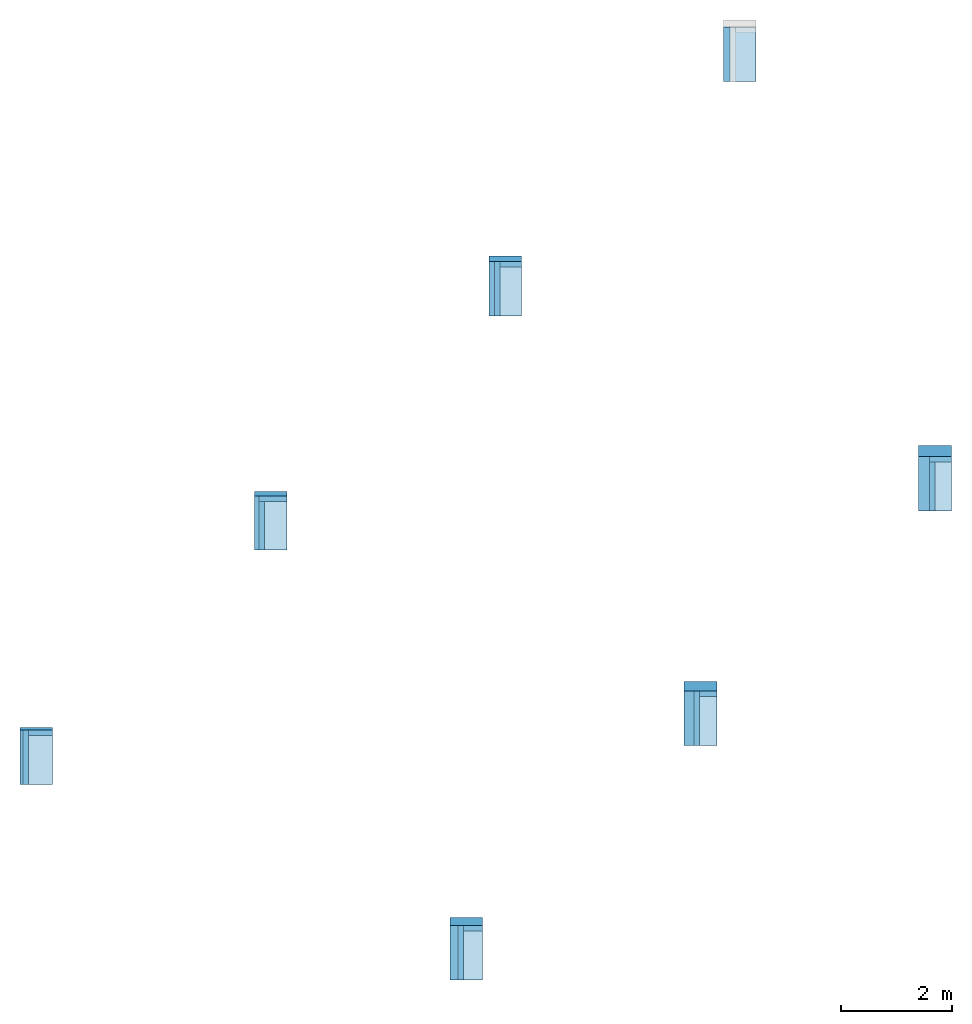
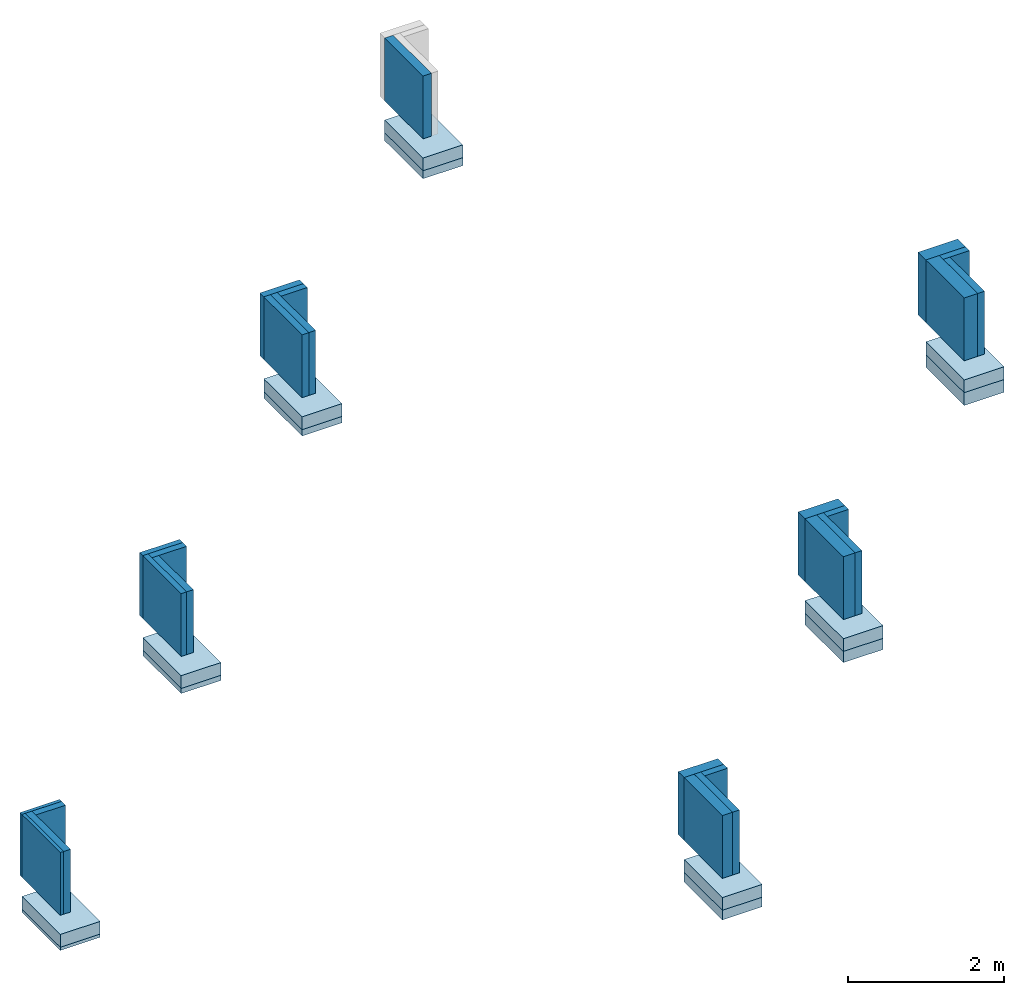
# One storey, part 1 of 2: 25 walls, 14 slabs.
"""IFC2X3 building model written with IfcOpenShell, lengths in millimetres."""

from ifc_helpers import new_model, entity, si_unit, converted_unit, derived_unit, direction, frame, frame_2d, origin, origin_2d_with_axis, place, context, subcontext, project, spatial, rectangle, extrude, material, layer, layer_set, layer_usage, type_object, element, save


model = new_model("IFC2X3")

# Units and contexts
model_context = context("Model", 3, precision=0.01, world=origin(), true_north=direction((6.12303176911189e-17, 1.0)))
context_of_model = context(None, 3, precision=0.01, world=origin(), true_north=direction((6.12303176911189e-17, 1.0)))
body_context = subcontext(model_context, "Body", "Model", "MODEL_VIEW")
ifc_project = project(units=[si_unit("LENGTHUNIT", "METRE", prefix="MILLI"), si_unit("AREAUNIT", "SQUARE_METRE"), si_unit("VOLUMEUNIT", "CUBIC_METRE"), converted_unit("PLANEANGLEUNIT", "DEGREE", entity("IfcRatioMeasure", 0.0174532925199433), si_unit("PLANEANGLEUNIT", "RADIAN"), dimensions=[0, 0, 0, 0, 0, 0, 0]), si_unit("MASSUNIT", "GRAM", prefix="KILO"), derived_unit("MASSDENSITYUNIT", [(si_unit("MASSUNIT", "GRAM", prefix="KILO"), 1), (si_unit("LENGTHUNIT", "METRE"), -3)]), derived_unit("MOMENTOFINERTIAUNIT", [(si_unit("LENGTHUNIT", "METRE"), 4)]), si_unit("TIMEUNIT", "SECOND"), si_unit("FREQUENCYUNIT", "HERTZ"), si_unit("THERMODYNAMICTEMPERATUREUNIT", "DEGREE_CELSIUS"), derived_unit("THERMALTRANSMITTANCEUNIT", [(si_unit("MASSUNIT", "GRAM", prefix="KILO"), 1), (si_unit("THERMODYNAMICTEMPERATUREUNIT", "KELVIN"), -1), (si_unit("TIMEUNIT", "SECOND"), -3)]), derived_unit("VOLUMETRICFLOWRATEUNIT", [(si_unit("LENGTHUNIT", "METRE"), 3), (si_unit("TIMEUNIT", "SECOND"), -1)]), si_unit("ELECTRICCURRENTUNIT", "AMPERE"), si_unit("ELECTRICVOLTAGEUNIT", "VOLT"), si_unit("POWERUNIT", "WATT"), si_unit("FORCEUNIT", "NEWTON", prefix="KILO"), si_unit("ILLUMINANCEUNIT", "LUX"), si_unit("LUMINOUSFLUXUNIT", "LUMEN"), si_unit("LUMINOUSINTENSITYUNIT", "CANDELA"), derived_unit("USERDEFINED", [(si_unit("MASSUNIT", "GRAM", prefix="KILO"), -1), (si_unit("LENGTHUNIT", "METRE"), -2), (si_unit("TIMEUNIT", "SECOND"), 3), (si_unit("LUMINOUSFLUXUNIT", "LUMEN"), 1)]), derived_unit("LINEARVELOCITYUNIT", [(si_unit("LENGTHUNIT", "METRE"), 1), (si_unit("TIMEUNIT", "SECOND"), -1)]), si_unit("PRESSUREUNIT", "PASCAL"), derived_unit("USERDEFINED", [(si_unit("LENGTHUNIT", "METRE"), -2), (si_unit("MASSUNIT", "GRAM", prefix="KILO"), 1), (si_unit("TIMEUNIT", "SECOND"), -2)]), derived_unit("LINEARFORCEUNIT", [(si_unit("MASSUNIT", "GRAM", prefix="KILO"), 1), (si_unit("LENGTHUNIT", "METRE"), 1), (si_unit("TIMEUNIT", "SECOND"), -2), (si_unit("LENGTHUNIT", "METRE"), -1)]), derived_unit("PLANARFORCEUNIT", [(si_unit("MASSUNIT", "GRAM", prefix="KILO"), 1), (si_unit("LENGTHUNIT", "METRE"), 1), (si_unit("TIMEUNIT", "SECOND"), -2), (si_unit("LENGTHUNIT", "METRE"), -2)])], contexts=[model_context, context_of_model])

# Site, building, storey
site_placement = place(None, origin())
site = spatial("IfcSite", under=ifc_project, at=site_placement, Name="Default", CompositionType="ELEMENT")
building_placement = place(site_placement, origin())
building = spatial("IfcBuilding", under=site, at=building_placement, CompositionType="ELEMENT")
storey_placement = place(building_placement, origin())
storey = spatial("IfcBuildingStorey", under=building, at=storey_placement, Name="00 begane grond", CompositionType="ELEMENT", Elevation=-2.77069864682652e-11)

# Slabs
ifc_material_1 = material(Name="Heraklith® I Heratekta - EPS60-SE")
ifc_layer_1 = layer(ifc_material_1, 70.0)
ifc_material_2 = material(Name="Heraklith® | Heratekta - Houtwollaag - 985x590mm")
ifc_layer_2 = layer(ifc_material_2, 10.0)
ifc_layer_set_1 = layer_set([ifc_layer_1, ifc_layer_2], Name="Floor:NLRS_23_FL_Heraklith Heratekta+ 80x985x590mm")
ifc_layer_usage_1 = layer_usage(ifc_layer_set_1, "AXIS3", "POSITIVE", 0.0)
slab_type_1 = type_object("IfcSlabType", Name="Floor:NLRS_23_FL_Heraklith Heratekta+ 80x985x590mm", PredefinedType="FLOOR", material=ifc_layer_set_1)
slab_1_placement = place(storey_placement, origin())
element("IfcSlab", 1, at=slab_1_placement, inside=storey, type_object=slab_type_1, material=ifc_layer_usage_1, Name="Floor:NLRS_23_FL_Heraklith Heratekta+ 80x985x590mm", ObjectType="Floor:NLRS_23_FL_Heraklith Heratekta+ 80x985x590mm", PredefinedType="FLOOR", context=body_context, shape_type="SweptSolid", body=[
    extrude(rectangle(XDim=985.0, YDim=590.0, at=frame_2d((5.6843418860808e-13, 0.0), x_axis=(1.0, 0.0))), frame((4537.64068711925, 4735.14068711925, -500.0), z_axis=(0.0, 0.0, -1.0), x_axis=(0.0, 1.0, 0.0)), (0.0, 0.0, 1.0), 80.0),
])
ifc_layer_3 = layer(ifc_material_1, 90.0)
ifc_layer_4 = layer(ifc_material_2, 10.0)
ifc_layer_set_2 = layer_set([ifc_layer_3, ifc_layer_4], Name="Floor:NLRS_23_FL_Heraklith Heratekta+ 100x985x590mm")
ifc_layer_usage_2 = layer_usage(ifc_layer_set_2, "AXIS3", "POSITIVE", 0.0)
slab_type_2 = type_object("IfcSlabType", Name="Floor:NLRS_23_FL_Heraklith Heratekta+ 100x985x590mm", PredefinedType="FLOOR", material=ifc_layer_set_2)
slab_2_placement = place(storey_placement, origin())
element("IfcSlab", 2, at=slab_2_placement, inside=storey, type_object=slab_type_2, material=ifc_layer_usage_2, Name="Floor:NLRS_23_FL_Heraklith Heratekta+ 100x985x590mm", ObjectType="Floor:NLRS_23_FL_Heraklith Heratekta+ 100x985x590mm", PredefinedType="FLOOR", context=body_context, shape_type="SweptSolid", body=[
    extrude(rectangle(XDim=985.0, YDim=590.0, at=frame_2d((-5.6843418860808e-13, 0.0), x_axis=(1.0, 0.0))), frame((8780.28137423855, 8977.78137423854, -500.0), z_axis=(0.0, 0.0, -1.0), x_axis=(0.0, 1.0, 0.0)), (0.0, 0.0, 1.0), 100.0),
])
ifc_layer_5 = layer(ifc_material_1, 115.0)
ifc_layer_6 = layer(ifc_material_2, 10.0)
ifc_layer_set_3 = layer_set([ifc_layer_5, ifc_layer_6], Name="Floor:NLRS_23_FL_Heraklith Heratekta+ 125x985x590mm")
ifc_layer_usage_3 = layer_usage(ifc_layer_set_3, "AXIS3", "POSITIVE", 0.0)
slab_type_3 = type_object("IfcSlabType", Name="Floor:NLRS_23_FL_Heraklith Heratekta+ 125x985x590mm", PredefinedType="FLOOR", material=ifc_layer_set_3)
slab_3_placement = place(storey_placement, origin())
element("IfcSlab", 3, at=slab_3_placement, inside=storey, type_object=slab_type_3, material=ifc_layer_usage_3, Name="Floor:NLRS_23_FL_Heraklith Heratekta+ 125x985x590mm", ObjectType="Floor:NLRS_23_FL_Heraklith Heratekta+ 125x985x590mm", PredefinedType="FLOOR", context=body_context, shape_type="SweptSolid", body=[
    extrude(rectangle(XDim=984.999999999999, YDim=590.0, at=frame_2d((-1.10844666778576e-12, 0.0), x_axis=(1.0, 0.0))), frame((13022.9220613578, 13220.4220613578, -500.0), z_axis=(0.0, 0.0, -1.0), x_axis=(0.0, 1.0, 0.0)), (0.0, 0.0, 1.0), 125.0),
])
ifc_layer_7 = layer(ifc_material_1, 140.0)
ifc_layer_8 = layer(ifc_material_2, 10.0)
ifc_layer_set_4 = layer_set([ifc_layer_7, ifc_layer_8], Name="Floor:NLRS_23_FL_Heraklith Heratekta+ 150x985x590mm")
ifc_layer_usage_4 = layer_usage(ifc_layer_set_4, "AXIS3", "POSITIVE", 0.0)
slab_type_4 = type_object("IfcSlabType", Name="Floor:NLRS_23_FL_Heraklith Heratekta+ 150x985x590mm", PredefinedType="FLOOR", material=ifc_layer_set_4)
slab_4_placement = place(storey_placement, origin())
element("IfcSlab", 4, at=slab_4_placement, inside=storey, type_object=slab_type_4, material=ifc_layer_usage_4, Name="Floor:NLRS_23_FL_Heraklith Heratekta+ 150x985x590mm", ObjectType="Floor:NLRS_23_FL_Heraklith Heratekta+ 150x985x590mm", PredefinedType="FLOOR", context=body_context, shape_type="SweptSolid", body=[
    extrude(rectangle(XDim=985.0, YDim=590.0, at=origin_2d_with_axis()), frame((8073.17459305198, -3043.03390593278, -500.0), z_axis=(0.0, 0.0, -1.0), x_axis=(0.0, 1.0, 0.0)), (0.0, 0.0, 1.0), 150.0),
])
ifc_layer_9 = layer(ifc_material_1, 165.0)
ifc_layer_10 = layer(ifc_material_2, 10.0)
ifc_layer_set_5 = layer_set([ifc_layer_9, ifc_layer_10], Name="Floor:NLRS_23_FL_Heraklith Heratekta+ 175x985x590mm")
ifc_layer_usage_5 = layer_usage(ifc_layer_set_5, "AXIS3", "POSITIVE", 0.0)
slab_type_5 = type_object("IfcSlabType", Name="Floor:NLRS_23_FL_Heraklith Heratekta+ 175x985x590mm", PredefinedType="FLOOR", material=ifc_layer_set_5)
slab_5_placement = place(storey_placement, origin())
element("IfcSlab", 5, at=slab_5_placement, inside=storey, type_object=slab_type_5, material=ifc_layer_usage_5, Name="Floor:NLRS_23_FL_Heraklith Heratekta+ 175x985x590mm", ObjectType="Floor:NLRS_23_FL_Heraklith Heratekta+ 175x985x590mm", PredefinedType="FLOOR", context=body_context, shape_type="SweptSolid", body=[
    extrude(rectangle(XDim=985.0, YDim=590.0, at=frame_2d((1.4210854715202e-13, 0.0), x_axis=(1.0, 0.0))), frame((12315.8152801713, 1199.6067811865, -500.0), z_axis=(0.0, 0.0, -1.0), x_axis=(0.0, 1.0, 0.0)), (0.0, 0.0, 1.0), 175.0),
])
ifc_layer_11 = layer(ifc_material_1, 190.0)
ifc_layer_12 = layer(ifc_material_2, 10.0)
ifc_layer_set_6 = layer_set([ifc_layer_11, ifc_layer_12], Name="Floor:NLRS_23_FL_Heraklith Heratekta+ 200x985x590mm")
ifc_layer_usage_6 = layer_usage(ifc_layer_set_6, "AXIS3", "POSITIVE", 0.0)
slab_type_6 = type_object("IfcSlabType", Name="Floor:NLRS_23_FL_Heraklith Heratekta+ 200x985x590mm", PredefinedType="FLOOR", material=ifc_layer_set_6)
slab_6_placement = place(storey_placement, origin())
element("IfcSlab", 6, at=slab_6_placement, inside=storey, type_object=slab_type_6, material=ifc_layer_usage_6, Name="Floor:NLRS_23_FL_Heraklith Heratekta+ 200x985x590mm", ObjectType="Floor:NLRS_23_FL_Heraklith Heratekta+ 200x985x590mm", PredefinedType="FLOOR", context=body_context, shape_type="SweptSolid", body=[
    extrude(rectangle(XDim=985.0, YDim=590.0, at=frame_2d((-5.6843418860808e-13, 0.0), x_axis=(1.0, 0.0))), frame((16558.4559672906, 5442.24746830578, -500.0), z_axis=(0.0, 0.0, -1.0), x_axis=(0.0, 1.0, 0.0)), (0.0, 0.0, 1.0), 200.0),
])
ifc_material_3 = material(Name="Concrete, Precast Panels")
ifc_layer_13 = layer(ifc_material_3, 200.0)
ifc_layer_set_7 = layer_set([ifc_layer_13], Name="Floor:Generic 200mm")
ifc_layer_usage_7 = layer_usage(ifc_layer_set_7, "AXIS3", "POSITIVE", 0.0)
slab_type_7 = type_object("IfcSlabType", Name="Floor:Generic 200mm", PredefinedType="FLOOR", material=ifc_layer_set_7)
slab_7_placement = place(storey_placement, origin())
element("IfcSlab", 7, at=slab_7_placement, inside=storey, type_object=slab_type_7, material=ifc_layer_usage_7, Name="Floor:Generic 200mm", ObjectType="Floor:Generic 200mm", PredefinedType="FLOOR", context=body_context, shape_type="SweptSolid", body=[
    extrude(rectangle(XDim=984.999999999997, YDim=589.999999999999, at=frame_2d((-5.6843418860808e-14, 1.13686837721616e-12), x_axis=(1.0, 0.0))), frame((295.0, 492.499999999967, -300.0), z_axis=(0.0, 0.0, -1.0), x_axis=(0.0, 1.0, 0.0)), (0.0, 0.0, 1.0), 200.0),
])
ifc_layer_usage_8 = layer_usage(ifc_layer_set_7, "AXIS3", "POSITIVE", 0.0)
slab_type_8 = type_object("IfcSlabType", Name="Floor:Generic 200mm", PredefinedType="FLOOR", material=ifc_layer_set_7)
slab_8_placement = place(storey_placement, origin())
element("IfcSlab", 8, at=slab_8_placement, inside=storey, type_object=slab_type_8, material=ifc_layer_usage_8, Name="Floor:Generic 200mm", ObjectType="Floor:Generic 200mm", PredefinedType="FLOOR", context=body_context, shape_type="SweptSolid", body=[
    extrude(rectangle(XDim=985.000000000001, YDim=589.999999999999, at=origin_2d_with_axis()), frame((4537.64068711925, 4735.14068711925, -300.0), z_axis=(0.0, 0.0, -1.0), x_axis=(0.0, 1.0, 0.0)), (0.0, 0.0, 1.0), 200.0),
])
ifc_layer_usage_9 = layer_usage(ifc_layer_set_7, "AXIS3", "POSITIVE", 0.0)
slab_type_9 = type_object("IfcSlabType", Name="Floor:Generic 200mm", PredefinedType="FLOOR", material=ifc_layer_set_7)
slab_9_placement = place(storey_placement, origin())
element("IfcSlab", 9, at=slab_9_placement, inside=storey, type_object=slab_type_9, material=ifc_layer_usage_9, Name="Floor:Generic 200mm", ObjectType="Floor:Generic 200mm", PredefinedType="FLOOR", context=body_context, shape_type="SweptSolid", body=[
    extrude(rectangle(XDim=984.999999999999, YDim=589.999999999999, at=frame_2d((0.0, 5.40012479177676e-13), x_axis=(1.0, 0.0))), frame((8780.28137423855, 8977.78137423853, -300.0), z_axis=(0.0, 0.0, -1.0), x_axis=(0.0, 1.0, 0.0)), (0.0, 0.0, 1.0), 200.0),
])
ifc_layer_usage_10 = layer_usage(ifc_layer_set_7, "AXIS3", "POSITIVE", 0.0)
slab_type_10 = type_object("IfcSlabType", Name="Floor:Generic 200mm", PredefinedType="FLOOR", material=ifc_layer_set_7)
slab_10_placement = place(storey_placement, origin())
element("IfcSlab", 10, at=slab_10_placement, inside=storey, type_object=slab_type_10, material=ifc_layer_usage_10, Name="Floor:Generic 200mm", ObjectType="Floor:Generic 200mm", PredefinedType="FLOOR", context=body_context, shape_type="SweptSolid", body=[
    extrude(rectangle(XDim=984.999999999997, YDim=590.0, at=frame_2d((2.18847162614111e-12, 0.0), x_axis=(1.0, 0.0))), frame((13022.9220613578, 13220.4220613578, -300.0), z_axis=(0.0, 0.0, -1.0), x_axis=(0.0, 1.0, 0.0)), (0.0, 0.0, 1.0), 200.0),
])
ifc_layer_usage_11 = layer_usage(ifc_layer_set_7, "AXIS3", "POSITIVE", 0.0)
slab_type_11 = type_object("IfcSlabType", Name="Floor:Generic 200mm", PredefinedType="FLOOR", material=ifc_layer_set_7)
slab_11_placement = place(storey_placement, origin())
element("IfcSlab", 11, at=slab_11_placement, inside=storey, type_object=slab_type_11, material=ifc_layer_usage_11, Name="Floor:Generic 200mm", ObjectType="Floor:Generic 200mm", PredefinedType="FLOOR", context=body_context, shape_type="SweptSolid", body=[
    extrude(rectangle(XDim=984.999999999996, YDim=590.0, at=frame_2d((-5.40012479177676e-13, 0.0), x_axis=(1.0, 0.0))), frame((16558.4559672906, 5442.24746830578, -300.0), z_axis=(0.0, 0.0, -1.0), x_axis=(0.0, 1.0, 0.0)), (0.0, 0.0, 1.0), 200.0),
])
ifc_layer_usage_12 = layer_usage(ifc_layer_set_7, "AXIS3", "POSITIVE", 0.0)
slab_type_12 = type_object("IfcSlabType", Name="Floor:Generic 200mm", PredefinedType="FLOOR", material=ifc_layer_set_7)
slab_12_placement = place(storey_placement, origin())
element("IfcSlab", 12, at=slab_12_placement, inside=storey, type_object=slab_type_12, material=ifc_layer_usage_12, Name="Floor:Generic 200mm", ObjectType="Floor:Generic 200mm", PredefinedType="FLOOR", context=body_context, shape_type="SweptSolid", body=[
    extrude(rectangle(XDim=985.000000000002, YDim=590.0, at=frame_2d((-2.8421709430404e-13, 0.0), x_axis=(1.0, 0.0))), frame((12315.8152801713, 1199.6067811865, -300.0), z_axis=(0.0, 0.0, -1.0), x_axis=(0.0, 1.0, 0.0)), (0.0, 0.0, 1.0), 200.0),
])
ifc_layer_usage_13 = layer_usage(ifc_layer_set_7, "AXIS3", "POSITIVE", 0.0)
slab_type_13 = type_object("IfcSlabType", Name="Floor:Generic 200mm", PredefinedType="FLOOR", material=ifc_layer_set_7)
slab_13_placement = place(storey_placement, origin())
element("IfcSlab", 13, at=slab_13_placement, inside=storey, type_object=slab_type_13, material=ifc_layer_usage_13, Name="Floor:Generic 200mm", ObjectType="Floor:Generic 200mm", PredefinedType="FLOOR", context=body_context, shape_type="SweptSolid", body=[
    extrude(rectangle(XDim=985.000000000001, YDim=590.000000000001, at=frame_2d((0.0, 5.40012479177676e-13), x_axis=(1.0, 0.0))), frame((8073.17459305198, -3043.03390593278, -300.0), z_axis=(0.0, 0.0, -1.0), x_axis=(0.0, 1.0, 0.0)), (0.0, 0.0, 1.0), 200.0),
])
ifc_layer_14 = layer(ifc_material_1, 40.0)
ifc_layer_15 = layer(ifc_material_2, 10.0)
ifc_layer_set_8 = layer_set([ifc_layer_14, ifc_layer_15], Name="Floor:NLRS_23_FL_Heraklith Heratekta+ 50x985x590mm")
ifc_layer_usage_14 = layer_usage(ifc_layer_set_8, "AXIS3", "POSITIVE", 0.0)
slab_type_14 = type_object("IfcSlabType", Name="Floor:NLRS_23_FL_Heraklith Heratekta+ 50x985x590mm", PredefinedType="FLOOR", material=ifc_layer_set_8)
slab_14_placement = place(storey_placement, origin())
element("IfcSlab", 14, at=slab_14_placement, inside=storey, type_object=slab_type_14, material=ifc_layer_usage_14, Name="Floor:NLRS_23_FL_Heraklith Heratekta+ 50x985x590mm", ObjectType="Floor:NLRS_23_FL_Heraklith Heratekta+ 50x985x590mm", PredefinedType="FLOOR", context=body_context, shape_type="SweptSolid", body=[
    extrude(rectangle(XDim=985.0, YDim=590.0, at=origin_2d_with_axis()), frame((295.0, 492.519553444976, -500.0), z_axis=(0.0, 0.0, -1.0), x_axis=(0.0, 1.0, 0.0)), (0.0, 0.0, 1.0), 50.0),
])

# Walls
ifc_layer_16 = layer(ifc_material_1, 40.0)
ifc_layer_17 = layer(ifc_material_2, 10.0)
ifc_layer_set_9 = layer_set([ifc_layer_16, ifc_layer_17], Name="Basic Wall:NLRS_42_WA_Heraklith Heratekta+ 50x985x590mm")
ifc_layer_usage_15 = layer_usage(ifc_layer_set_9, "AXIS2", "POSITIVE", -25.0)
wall_type_1 = type_object("IfcWallType", Name="Basic Wall:NLRS_42_WA_Heraklith Heratekta+ 50x985x590mm", PredefinedType="STANDARD", material=ifc_layer_set_9)
wall_1_placement = place(storey_placement, frame((25.0, 0.0, 0.0), z_axis=(0.0, 0.0, 1.0), x_axis=(0.0, 1.0, 0.0)))
element("IfcWallStandardCase", 15, at=wall_1_placement, inside=storey, type_object=wall_type_1, material=ifc_layer_usage_15, Name="Basic Wall:NLRS_42_WA_Heraklith Heratekta+ 50x985x590mm", ObjectType="Basic Wall:NLRS_42_WA_Heraklith Heratekta+ 50x985x590mm", context=body_context, shape_type="SweptSolid", body=[
    extrude(rectangle(XDim=985.0, YDim=50.0, at=frame_2d((492.5, 1.77635683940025e-15), x_axis=(-1.0, 0.0))), origin(), (0.0, 0.0, 1.0), 985.000000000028),
])
ifc_layer_18 = layer(ifc_material_1, 40.0)
ifc_layer_19 = layer(ifc_material_2, 10.0)
ifc_layer_set_10 = layer_set([ifc_layer_18, ifc_layer_19], Name="Basic Wall:NLRS_41_WA_Heraklith Heratekta+ 50x985x590mm")
ifc_layer_usage_16 = layer_usage(ifc_layer_set_10, "AXIS2", "NEGATIVE", 25.0)
wall_type_2 = type_object("IfcWallType", Name="Basic Wall:NLRS_41_WA_Heraklith Heratekta+ 50x985x590mm", PredefinedType="STANDARD", material=ifc_layer_set_10)
wall_2_placement = place(storey_placement, frame((590.0, 1010.0, 0.0), z_axis=(0.0, 0.0, 1.0), x_axis=(-1.0, 0.0, 0.0)))
element("IfcWallStandardCase", 16, at=wall_2_placement, inside=storey, type_object=wall_type_2, material=ifc_layer_usage_16, Name="Basic Wall:NLRS_41_WA_Heraklith Heratekta+ 50x985x590mm", ObjectType="Basic Wall:NLRS_41_WA_Heraklith Heratekta+ 50x985x590mm", context=body_context, shape_type="SweptSolid", body=[
    extrude(rectangle(XDim=590.0, YDim=50.0, at=frame_2d((295.0, -1.59872115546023e-14), x_axis=(-1.0, 0.0))), origin(), (0.0, 0.0, 1.0), 985.000000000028),
])
ifc_layer_20 = layer(ifc_material_1, 70.0)
ifc_layer_21 = layer(ifc_material_2, 10.0)
ifc_layer_set_11 = layer_set([ifc_layer_20, ifc_layer_21], Name="Basic Wall:NLRS_42_WA_Heraklith Heratekta+ 80x985x590mm")
ifc_layer_usage_17 = layer_usage(ifc_layer_set_11, "AXIS2", "POSITIVE", -40.0)
wall_type_3 = type_object("IfcWallType", Name="Basic Wall:NLRS_42_WA_Heraklith Heratekta+ 80x985x590mm", PredefinedType="STANDARD", material=ifc_layer_set_11)
wall_3_placement = place(storey_placement, frame((4282.64068711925, 4242.64068711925, 0.0), z_axis=(0.0, 0.0, 1.0), x_axis=(0.0, 1.0, 0.0)))
element("IfcWallStandardCase", 17, at=wall_3_placement, inside=storey, type_object=wall_type_3, material=ifc_layer_usage_17, Name="Basic Wall:NLRS_42_WA_Heraklith Heratekta+ 80x985x590mm", ObjectType="Basic Wall:NLRS_42_WA_Heraklith Heratekta+ 80x985x590mm", context=body_context, shape_type="SweptSolid", body=[
    extrude(rectangle(XDim=984.999999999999, YDim=80.0000000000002, at=frame_2d((492.5, -2.1316282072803e-14), x_axis=(-1.0, 0.0))), origin(), (0.0, 0.0, 1.0), 985.000000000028),
])
ifc_layer_22 = layer(ifc_material_1, 70.0)
ifc_layer_23 = layer(ifc_material_2, 10.0)
ifc_layer_set_12 = layer_set([ifc_layer_22, ifc_layer_23], Name="Basic Wall:NLRS_41_WA_Heraklith Heratekta+ 80x985x590mm")
ifc_layer_usage_18 = layer_usage(ifc_layer_set_12, "AXIS2", "NEGATIVE", 40.0)
wall_type_4 = type_object("IfcWallType", Name="Basic Wall:NLRS_41_WA_Heraklith Heratekta+ 80x985x590mm", PredefinedType="STANDARD", material=ifc_layer_set_12)
wall_4_placement = place(storey_placement, frame((4832.64068711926, 5267.64068711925, 0.0), z_axis=(0.0, 0.0, 1.0), x_axis=(-1.0, 0.0, 0.0)))
element("IfcWallStandardCase", 18, at=wall_4_placement, inside=storey, type_object=wall_type_4, material=ifc_layer_usage_18, Name="Basic Wall:NLRS_41_WA_Heraklith Heratekta+ 80x985x590mm", ObjectType="Basic Wall:NLRS_41_WA_Heraklith Heratekta+ 80x985x590mm", context=body_context, shape_type="SweptSolid", body=[
    extrude(rectangle(XDim=590.000000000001, YDim=79.9999999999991, at=frame_2d((295.0, 4.58300064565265e-13), x_axis=(-1.0, 0.0))), origin(), (0.0, 0.0, 1.0), 985.000000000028),
])
ifc_layer_24 = layer(ifc_material_1, 90.0)
ifc_layer_25 = layer(ifc_material_2, 10.0)
ifc_layer_set_13 = layer_set([ifc_layer_24, ifc_layer_25], Name="Basic Wall:NLRS_42_WA_Heraklith Heratekta+ 100x985x590mm")
ifc_layer_usage_19 = layer_usage(ifc_layer_set_13, "AXIS2", "POSITIVE", -50.0)
wall_type_5 = type_object("IfcWallType", Name="Basic Wall:NLRS_42_WA_Heraklith Heratekta+ 100x985x590mm", PredefinedType="STANDARD", material=ifc_layer_set_13)
wall_5_placement = place(storey_placement, frame((8535.28137423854, 8485.28137423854, 0.0), z_axis=(0.0, 0.0, 1.0), x_axis=(0.0, 1.0, 0.0)))
element("IfcWallStandardCase", 19, at=wall_5_placement, inside=storey, type_object=wall_type_5, material=ifc_layer_usage_19, Name="Basic Wall:NLRS_42_WA_Heraklith Heratekta+ 100x985x590mm", ObjectType="Basic Wall:NLRS_42_WA_Heraklith Heratekta+ 100x985x590mm", context=body_context, shape_type="SweptSolid", body=[
    extrude(rectangle(XDim=984.999999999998, YDim=99.9999999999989, at=frame_2d((492.499999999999, 2.52242671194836e-13), x_axis=(-1.0, 0.0))), origin(), (0.0, 0.0, 1.0), 985.000000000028),
])
ifc_layer_26 = layer(ifc_material_1, 90.0)
ifc_layer_27 = layer(ifc_material_2, 10.0)
ifc_layer_set_14 = layer_set([ifc_layer_26, ifc_layer_27], Name="Basic Wall:NLRS_41_WA_Heraklith Heratekta+ 100x985x590mm")
ifc_layer_usage_20 = layer_usage(ifc_layer_set_14, "AXIS2", "NEGATIVE", 50.0)
wall_type_6 = type_object("IfcWallType", Name="Basic Wall:NLRS_41_WA_Heraklith Heratekta+ 100x985x590mm", PredefinedType="STANDARD", material=ifc_layer_set_14)
wall_6_placement = place(storey_placement, frame((9075.28137423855, 9520.28137423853, 0.0), z_axis=(0.0, 0.0, 1.0), x_axis=(-1.0, 0.0, 0.0)))
element("IfcWallStandardCase", 20, at=wall_6_placement, inside=storey, type_object=wall_type_6, material=ifc_layer_usage_20, Name="Basic Wall:NLRS_41_WA_Heraklith Heratekta+ 100x985x590mm", ObjectType="Basic Wall:NLRS_41_WA_Heraklith Heratekta+ 100x985x590mm", context=body_context, shape_type="SweptSolid", body=[
    extrude(rectangle(XDim=590.0, YDim=99.9999999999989, at=frame_2d((295.0, 4.58300064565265e-13), x_axis=(-1.0, 0.0))), origin(), (0.0, 0.0, 1.0), 985.000000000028),
])
ifc_layer_28 = layer(ifc_material_1, 115.0)
ifc_layer_29 = layer(ifc_material_2, 10.0)
ifc_layer_set_15 = layer_set([ifc_layer_28, ifc_layer_29], Name="Basic Wall:NLRS_42_WA_Heraklith Heratekta+ 125x985x590mm")
ifc_layer_usage_21 = layer_usage(ifc_layer_set_15, "AXIS2", "POSITIVE", -62.5)
wall_type_7 = type_object("IfcWallType", Name="Basic Wall:NLRS_42_WA_Heraklith Heratekta+ 125x985x590mm", PredefinedType="STANDARD", material=ifc_layer_set_15)
wall_7_placement = place(storey_placement, frame((12790.4220613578, 12727.9220613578, 0.0), z_axis=(0.0, 0.0, 1.0), x_axis=(0.0, 1.0, 0.0)))
element("IfcWallStandardCase", 21, at=wall_7_placement, inside=storey, type_object=wall_type_7, material=ifc_layer_usage_21, Name="Basic Wall:NLRS_42_WA_Heraklith Heratekta+ 125x985x590mm", ObjectType="Basic Wall:NLRS_42_WA_Heraklith Heratekta+ 125x985x590mm", context=body_context, shape_type="SweptSolid", body=[
    extrude(rectangle(XDim=984.999999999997, YDim=125.000000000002, at=frame_2d((492.499999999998, -2.91322521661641e-13), x_axis=(-1.0, 0.0))), origin(), (0.0, 0.0, 1.0), 985.000000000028),
])
ifc_layer_30 = layer(ifc_material_1, 140.0)
ifc_layer_31 = layer(ifc_material_2, 10.0)
ifc_layer_set_16 = layer_set([ifc_layer_30, ifc_layer_31], Name="Basic Wall:NLRS_42_WA_Heraklith Heratekta+ 150x985x590mm")
ifc_layer_usage_22 = layer_usage(ifc_layer_set_16, "AXIS2", "POSITIVE", -75.0)
wall_type_8 = type_object("IfcWallType", Name="Basic Wall:NLRS_42_WA_Heraklith Heratekta+ 150x985x590mm", PredefinedType="STANDARD", material=ifc_layer_set_16)
wall_8_placement = place(storey_placement, frame((7853.17459305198, -3535.53390593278, 0.0), z_axis=(0.0, 0.0, 1.0), x_axis=(0.0, 1.0, 0.0)))
element("IfcWallStandardCase", 22, at=wall_8_placement, inside=storey, type_object=wall_type_8, material=ifc_layer_usage_22, Name="Basic Wall:NLRS_42_WA_Heraklith Heratekta+ 150x985x590mm", ObjectType="Basic Wall:NLRS_42_WA_Heraklith Heratekta+ 150x985x590mm", context=body_context, shape_type="SweptSolid", body=[
    extrude(rectangle(XDim=985.000000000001, YDim=150.000000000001, at=frame_2d((492.5, 2.55795384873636e-13), x_axis=(-1.0, 0.0))), origin(), (0.0, 0.0, 1.0), 985.000000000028),
])
ifc_layer_32 = layer(ifc_material_1, 140.0)
ifc_layer_33 = layer(ifc_material_2, 10.0)
ifc_layer_set_17 = layer_set([ifc_layer_32, ifc_layer_33], Name="Basic Wall:NLRS_41_WA_Heraklith Heratekta+ 150x985x590mm")
ifc_layer_usage_23 = layer_usage(ifc_layer_set_17, "AXIS2", "NEGATIVE", 75.0)
wall_type_9 = type_object("IfcWallType", Name="Basic Wall:NLRS_41_WA_Heraklith Heratekta+ 150x985x590mm", PredefinedType="STANDARD", material=ifc_layer_set_17)
wall_9_placement = place(storey_placement, frame((8368.17459305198, -2475.53390593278, 0.0), z_axis=(0.0, 0.0, 1.0), x_axis=(-1.0, 0.0, 0.0)))
element("IfcWallStandardCase", 23, at=wall_9_placement, inside=storey, type_object=wall_type_9, material=ifc_layer_usage_23, Name="Basic Wall:NLRS_41_WA_Heraklith Heratekta+ 150x985x590mm", ObjectType="Basic Wall:NLRS_41_WA_Heraklith Heratekta+ 150x985x590mm", context=body_context, shape_type="SweptSolid", body=[
    extrude(rectangle(XDim=590.000000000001, YDim=150.0, at=frame_2d((295.000000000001, -2.20268248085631e-13), x_axis=(-1.0, 0.0))), origin(), (0.0, 0.0, 1.0), 985.000000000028),
])
ifc_layer_34 = layer(ifc_material_1, 165.0)
ifc_layer_35 = layer(ifc_material_2, 10.0)
ifc_layer_set_18 = layer_set([ifc_layer_34, ifc_layer_35], Name="Basic Wall:NLRS_42_WA_Heraklith Heratekta+ 175x985x590mm")
ifc_layer_usage_24 = layer_usage(ifc_layer_set_18, "AXIS2", "POSITIVE", -87.5)
wall_type_10 = type_object("IfcWallType", Name="Basic Wall:NLRS_42_WA_Heraklith Heratekta+ 175x985x590mm", PredefinedType="STANDARD", material=ifc_layer_set_18)
wall_10_placement = place(storey_placement, frame((12108.3152801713, 707.106781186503, 0.0), z_axis=(0.0, 0.0, 1.0), x_axis=(0.0, 1.0, 0.0)))
element("IfcWallStandardCase", 24, at=wall_10_placement, inside=storey, type_object=wall_type_10, material=ifc_layer_usage_24, Name="Basic Wall:NLRS_42_WA_Heraklith Heratekta+ 175x985x590mm", ObjectType="Basic Wall:NLRS_42_WA_Heraklith Heratekta+ 175x985x590mm", context=body_context, shape_type="SweptSolid", body=[
    extrude(rectangle(XDim=985.0, YDim=174.999999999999, at=frame_2d((492.5, -2.91322521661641e-13), x_axis=(-1.0, 0.0))), origin(), (0.0, 0.0, 1.0), 985.000000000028),
])
ifc_layer_36 = layer(ifc_material_1, 165.0)
ifc_layer_37 = layer(ifc_material_2, 10.0)
ifc_layer_set_19 = layer_set([ifc_layer_36, ifc_layer_37], Name="Basic Wall:NLRS_41_WA_Heraklith Heratekta+ 175x985x590mm")
ifc_layer_usage_25 = layer_usage(ifc_layer_set_19, "AXIS2", "NEGATIVE", 87.5)
wall_type_11 = type_object("IfcWallType", Name="Basic Wall:NLRS_41_WA_Heraklith Heratekta+ 175x985x590mm", PredefinedType="STANDARD", material=ifc_layer_set_19)
wall_11_placement = place(storey_placement, frame((12610.8152801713, 1779.6067811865, 0.0), z_axis=(0.0, 0.0, 1.0), x_axis=(-1.0, 0.0, 0.0)))
element("IfcWallStandardCase", 25, at=wall_11_placement, inside=storey, type_object=wall_type_11, material=ifc_layer_usage_25, Name="Basic Wall:NLRS_41_WA_Heraklith Heratekta+ 175x985x590mm", ObjectType="Basic Wall:NLRS_41_WA_Heraklith Heratekta+ 175x985x590mm", context=body_context, shape_type="SweptSolid", body=[
    extrude(rectangle(XDim=589.999999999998, YDim=175.0, at=frame_2d((294.999999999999, -8.5265128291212e-14), x_axis=(-1.0, 0.0))), origin(), (0.0, 0.0, 1.0), 985.000000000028),
])
ifc_layer_38 = layer(ifc_material_1, 190.0)
ifc_layer_39 = layer(ifc_material_2, 10.0)
ifc_layer_set_20 = layer_set([ifc_layer_38, ifc_layer_39], Name="Basic Wall:NLRS_42_WA_Heraklith Heratekta+ 200x985x590mm")
ifc_layer_usage_26 = layer_usage(ifc_layer_set_20, "AXIS2", "POSITIVE", -100.0)
wall_type_12 = type_object("IfcWallType", Name="Basic Wall:NLRS_42_WA_Heraklith Heratekta+ 200x985x590mm", PredefinedType="STANDARD", material=ifc_layer_set_20)
wall_12_placement = place(storey_placement, frame((16363.4559672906, 4949.74746830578, 0.0), z_axis=(0.0, 0.0, 1.0), x_axis=(0.0, 1.0, 0.0)))
element("IfcWallStandardCase", 26, at=wall_12_placement, inside=storey, type_object=wall_type_12, material=ifc_layer_usage_26, Name="Basic Wall:NLRS_42_WA_Heraklith Heratekta+ 200x985x590mm", ObjectType="Basic Wall:NLRS_42_WA_Heraklith Heratekta+ 200x985x590mm", context=body_context, shape_type="SweptSolid", body=[
    extrude(rectangle(XDim=985.000000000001, YDim=199.999999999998, at=frame_2d((492.500000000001, -2.8421709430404e-13), x_axis=(-1.0, 0.0))), origin(), (0.0, 0.0, 1.0), 985.000000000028),
])
ifc_layer_40 = layer(ifc_material_1, 190.0)
ifc_layer_41 = layer(ifc_material_2, 10.0)
ifc_layer_set_21 = layer_set([ifc_layer_40, ifc_layer_41], Name="Basic Wall:NLRS_41_WA_Heraklith Heratekta+ 200x985x590mm")
ifc_layer_usage_27 = layer_usage(ifc_layer_set_21, "AXIS2", "NEGATIVE", 100.0)
wall_type_13 = type_object("IfcWallType", Name="Basic Wall:NLRS_41_WA_Heraklith Heratekta+ 200x985x590mm", PredefinedType="STANDARD", material=ifc_layer_set_21)
wall_13_placement = place(storey_placement, frame((16853.4559672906, 6034.74746830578, 0.0), z_axis=(0.0, 0.0, 1.0), x_axis=(-1.0, 0.0, 0.0)))
element("IfcWallStandardCase", 27, at=wall_13_placement, inside=storey, type_object=wall_type_13, material=ifc_layer_usage_27, Name="Basic Wall:NLRS_41_WA_Heraklith Heratekta+ 200x985x590mm", ObjectType="Basic Wall:NLRS_41_WA_Heraklith Heratekta+ 200x985x590mm", context=body_context, shape_type="SweptSolid", body=[
    extrude(rectangle(XDim=590.0, YDim=200.0, at=frame_2d((295.0, 4.61852778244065e-13), x_axis=(-1.0, 0.0))), origin(), (0.0, 0.0, 1.0), 985.000000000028),
])
ifc_layer_42 = layer(ifc_material_3, 100.0)
ifc_layer_set_22 = layer_set([ifc_layer_42], Name="Basic Wall:Generic_100mm")
ifc_layer_usage_28 = layer_usage(ifc_layer_set_22, "AXIS2", "NEGATIVE", 50.0)
wall_type_14 = type_object("IfcWallType", Name="Basic Wall:Generic_100mm", PredefinedType="STANDARD", material=ifc_layer_set_22)
wall_14_placement = place(storey_placement, frame((100.0, 0.0, 0.0), z_axis=(0.0, 0.0, 1.0), x_axis=(0.0, 1.0, 0.0)))
element("IfcWallStandardCase", 28, at=wall_14_placement, inside=storey, type_object=wall_type_14, material=ifc_layer_usage_28, Name="Basic Wall:Generic_100mm", ObjectType="Basic Wall:Generic_100mm", context=body_context, shape_type="SweptSolid", body=[
    extrude(rectangle(XDim=985.0, YDim=100.0, at=frame_2d((492.5, 0.0), x_axis=(-1.0, 0.0))), origin(), (0.0, 0.0, 1.0), 985.000000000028),
])
ifc_layer_usage_29 = layer_usage(ifc_layer_set_22, "AXIS2", "POSITIVE", -50.0)
wall_15_placement = place(storey_placement, frame((590.0, 935.0, 0.0), z_axis=(0.0, 0.0, 1.0), x_axis=(-1.0, 0.0, 0.0)))
element("IfcWallStandardCase", 29, at=wall_15_placement, inside=storey, type_object=wall_type_14, material=ifc_layer_usage_29, Name="Basic Wall:Generic_100mm", ObjectType="Basic Wall:Generic_100mm", context=body_context, shape_type="SweptSolid", body=[
    extrude(rectangle(XDim=439.999999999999, YDim=100.0, at=frame_2d((219.999999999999, 0.0), x_axis=(-1.0, 0.0))), origin(), (0.0, 0.0, 1.0), 985.000000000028),
])
ifc_layer_usage_30 = layer_usage(ifc_layer_set_22, "AXIS2", "NEGATIVE", 50.0)
wall_16_placement = place(storey_placement, frame((4372.64068711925, 4242.64068711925, 0.0), z_axis=(0.0, 0.0, 1.0), x_axis=(0.0, 1.0, 0.0)))
element("IfcWallStandardCase", 30, at=wall_16_placement, inside=storey, type_object=wall_type_14, material=ifc_layer_usage_30, Name="Basic Wall:Generic_100mm", ObjectType="Basic Wall:Generic_100mm", context=body_context, shape_type="SweptSolid", body=[
    extrude(rectangle(XDim=884.999999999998, YDim=100.0, at=frame_2d((442.499999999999, -3.90798504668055e-14), x_axis=(-1.0, 0.0))), origin(), (0.0, 0.0, 1.0), 985.000000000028),
])
ifc_layer_usage_31 = layer_usage(ifc_layer_set_22, "AXIS2", "POSITIVE", -50.0)
wall_17_placement = place(storey_placement, frame((4832.64068711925, 5177.64068711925, 0.0), z_axis=(0.0, 0.0, 1.0), x_axis=(-1.0, 0.0, 0.0)))
element("IfcWallStandardCase", 31, at=wall_17_placement, inside=storey, type_object=wall_type_14, material=ifc_layer_usage_31, Name="Basic Wall:Generic_100mm", ObjectType="Basic Wall:Generic_100mm", context=body_context, shape_type="SweptSolid", body=[
    extrude(rectangle(XDim=509.999999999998, YDim=100.000000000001, at=frame_2d((254.999999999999, 0.0), x_axis=(-1.0, 0.0))), origin(), (0.0, 0.0, 1.0), 985.000000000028),
])
ifc_layer_usage_32 = layer_usage(ifc_layer_set_22, "AXIS2", "NEGATIVE", 50.0)
wall_18_placement = place(storey_placement, frame((8635.28137423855, 8485.28137423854, 0.0), z_axis=(0.0, 0.0, 1.0), x_axis=(0.0, 1.0, 0.0)))
element("IfcWallStandardCase", 32, at=wall_18_placement, inside=storey, type_object=wall_type_14, material=ifc_layer_usage_32, Name="Basic Wall:Generic_100mm", ObjectType="Basic Wall:Generic_100mm", context=body_context, shape_type="SweptSolid", body=[
    extrude(rectangle(XDim=984.999999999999, YDim=99.9999999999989, at=frame_2d((492.5, 5.6843418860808e-14), x_axis=(-1.0, 0.0))), origin(), (0.0, 0.0, 1.0), 985.000000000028),
])
ifc_layer_usage_33 = layer_usage(ifc_layer_set_22, "AXIS2", "POSITIVE", -50.0)
wall_19_placement = place(storey_placement, frame((9075.28137423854, 9420.28137423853, 0.0), z_axis=(0.0, 0.0, 1.0), x_axis=(-1.0, 0.0, 0.0)))
element("IfcWallStandardCase", 33, at=wall_19_placement, inside=storey, type_object=wall_type_14, material=ifc_layer_usage_33, Name="Basic Wall:Generic_100mm", ObjectType="Basic Wall:Generic_100mm", context=body_context, shape_type="SweptSolid", body=[
    extrude(rectangle(XDim=389.999999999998, YDim=99.9999999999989, at=frame_2d((194.999999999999, 0.0), x_axis=(-1.0, 0.0))), origin(), (0.0, 0.0, 1.0), 985.000000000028),
])
ifc_layer_usage_34 = layer_usage(ifc_layer_set_22, "AXIS2", "NEGATIVE", 50.0)
wall_20_placement = place(storey_placement, frame((16513.4559672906, 4949.74746830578, 0.0), z_axis=(0.0, 0.0, 1.0), x_axis=(0.0, 1.0, 0.0)))
element("IfcWallStandardCase", 34, at=wall_20_placement, inside=storey, type_object=wall_type_14, material=ifc_layer_usage_34, Name="Basic Wall:Generic_100mm", ObjectType="Basic Wall:Generic_100mm", context=body_context, shape_type="SweptSolid", body=[
    extrude(rectangle(XDim=885.000000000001, YDim=99.9999999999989, at=frame_2d((442.500000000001, 5.6843418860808e-14), x_axis=(-1.0, 0.0))), origin(), (0.0, 0.0, 1.0), 985.000000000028),
])
ifc_layer_usage_35 = layer_usage(ifc_layer_set_22, "AXIS2", "POSITIVE", -50.0)
wall_21_placement = place(storey_placement, frame((16853.4559672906, 5884.74746830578, 0.0), z_axis=(0.0, 0.0, 1.0), x_axis=(-1.0, 0.0, 0.0)))
element("IfcWallStandardCase", 35, at=wall_21_placement, inside=storey, type_object=wall_type_14, material=ifc_layer_usage_35, Name="Basic Wall:Generic_100mm", ObjectType="Basic Wall:Generic_100mm", context=body_context, shape_type="SweptSolid", body=[
    extrude(rectangle(XDim=389.999999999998, YDim=99.9999999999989, at=frame_2d((194.999999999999, 0.0), x_axis=(-1.0, 0.0))), origin(), (0.0, 0.0, 1.0), 985.000000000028),
])
ifc_layer_usage_36 = layer_usage(ifc_layer_set_22, "AXIS2", "NEGATIVE", 50.0)
wall_22_placement = place(storey_placement, frame((12245.8152801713, 707.106781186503, 0.0), z_axis=(0.0, 0.0, 1.0), x_axis=(0.0, 1.0, 0.0)))
element("IfcWallStandardCase", 36, at=wall_22_placement, inside=storey, type_object=wall_type_14, material=ifc_layer_usage_36, Name="Basic Wall:Generic_100mm", ObjectType="Basic Wall:Generic_100mm", context=body_context, shape_type="SweptSolid", body=[
    extrude(rectangle(XDim=985.000000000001, YDim=99.9999999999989, at=frame_2d((492.500000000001, 4.2632564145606e-14), x_axis=(-1.0, 0.0))), origin(), (0.0, 0.0, 1.0), 985.000000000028),
])
ifc_layer_usage_37 = layer_usage(ifc_layer_set_22, "AXIS2", "POSITIVE", -50.0)
wall_23_placement = place(storey_placement, frame((12610.8152801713, 1642.1067811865, 0.0), z_axis=(0.0, 0.0, 1.0), x_axis=(-1.0, 0.0, 0.0)))
element("IfcWallStandardCase", 37, at=wall_23_placement, inside=storey, type_object=wall_type_14, material=ifc_layer_usage_37, Name="Basic Wall:Generic_100mm", ObjectType="Basic Wall:Generic_100mm", context=body_context, shape_type="SweptSolid", body=[
    extrude(rectangle(XDim=314.999999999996, YDim=100.0, at=frame_2d((157.499999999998, 0.0), x_axis=(-1.0, 0.0))), origin(), (0.0, 0.0, 1.0), 985.000000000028),
])
ifc_layer_usage_38 = layer_usage(ifc_layer_set_22, "AXIS2", "NEGATIVE", 50.0)
wall_24_placement = place(storey_placement, frame((7978.17459305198, -3535.53390593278, 0.0), z_axis=(0.0, 0.0, 1.0), x_axis=(0.0, 1.0, 0.0)))
element("IfcWallStandardCase", 38, at=wall_24_placement, inside=storey, type_object=wall_type_14, material=ifc_layer_usage_38, Name="Basic Wall:Generic_100mm", ObjectType="Basic Wall:Generic_100mm", context=body_context, shape_type="SweptSolid", body=[
    extrude(rectangle(XDim=985.000000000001, YDim=99.9999999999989, at=frame_2d((492.5, 3.90798504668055e-14), x_axis=(-1.0, 0.0))), origin(), (0.0, 0.0, 1.0), 985.000000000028),
])
ifc_layer_usage_39 = layer_usage(ifc_layer_set_22, "AXIS2", "POSITIVE", -50.0)
wall_25_placement = place(storey_placement, frame((8368.17459305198, -2600.53390593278, 0.0), z_axis=(0.0, 0.0, 1.0), x_axis=(-1.0, 0.0, 0.0)))
element("IfcWallStandardCase", 39, at=wall_25_placement, inside=storey, type_object=wall_type_14, material=ifc_layer_usage_39, Name="Basic Wall:Generic_100mm", ObjectType="Basic Wall:Generic_100mm", context=body_context, shape_type="SweptSolid", body=[
    extrude(rectangle(XDim=339.999999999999, YDim=100.0, at=frame_2d((169.999999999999, 0.0), x_axis=(-1.0, 0.0))), origin(), (0.0, 0.0, 1.0), 985.000000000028),
])

save(model, "model.ifc")
